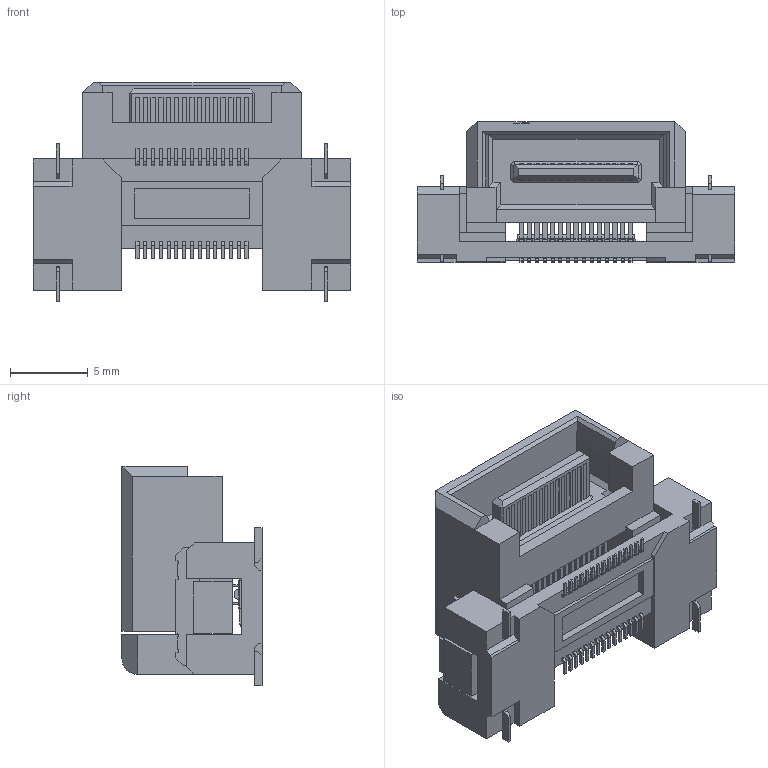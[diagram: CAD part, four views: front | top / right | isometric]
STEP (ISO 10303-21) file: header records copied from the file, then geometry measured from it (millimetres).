
FILE_DESCRIPTION(('Creo Elements/Direct Modeling STEP Export'),'2;1');
FILE_NAME('DT00-030L.stp','2018-11-12T16:51:20',(''),(''),'Creo Elements/Direct Modeling STEP processor for AP214 (Solid Model)','Creo Elements/Direct Modeling 19.0F 14-Feb-2017 (C) Parametric Technology GmbH','');
FILE_SCHEMA(('AUTOMOTIVE_DESIGN { 1 0 10303 214 1 1 1 1 }'));
Length unit declared in the file: millimetre
Products named in the file (2): DT00-030L_model
Assembly tree (1 placements, depth 2):
  DT00-030L_model
    DT00-030L_model
Bounding box: 20.42 x 9 x 14.09 mm (x, y, z)
Volume: 918.6 mm3; surface area: 1781.5 mm2
Topology: 1 solids, 1 shells, 1578 faces, 4454 edges, 2896 vertices
Faces by surface type: plane 1298, cylinder 280
Entity records: 48599 total; most frequent: ORIENTED_EDGE 8908, CARTESIAN_POINT 8524, DIRECTION 7624, EDGE_CURVE 4454, VECTOR 3632, LINE 3632, VERTEX_POINT 2896, AXIS2_PLACEMENT_3D 1996
